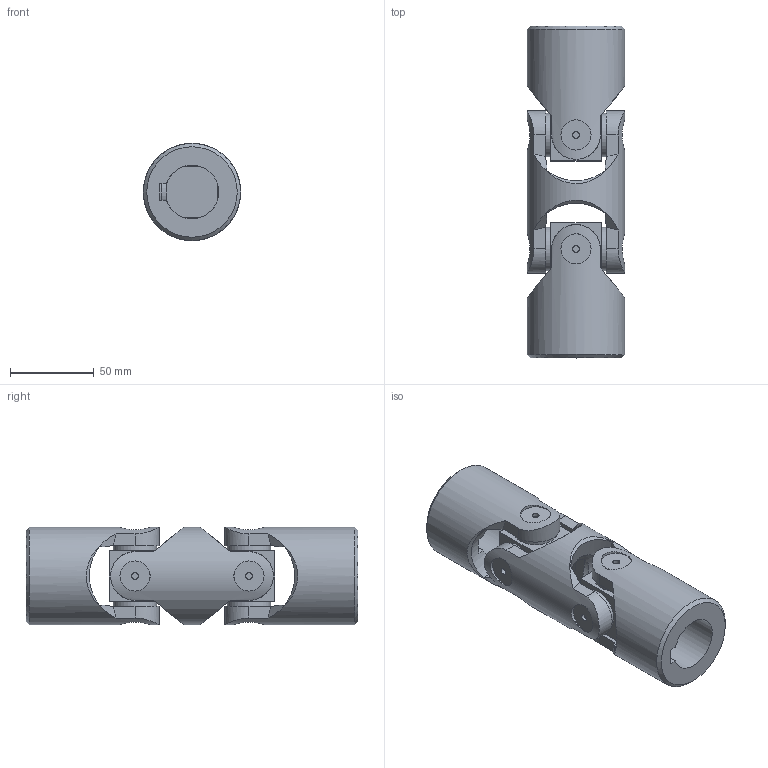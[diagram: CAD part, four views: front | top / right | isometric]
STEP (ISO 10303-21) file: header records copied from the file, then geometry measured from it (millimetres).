
FILE_DESCRIPTION(/* description */ (''),/* implementation_level */ '2;1');
FILE_NAME(/* name */ '\\SRV2016\Societa\Stefano\Disegni 3D\00Catalogo 3D\02Doppi GD-GBD\SG0D322C.stp',/* time_stamp */ '2021-11-23T15:53:59+01:00',/* author */ ('acquisti'),/* organization */ (''),/* preprocessor_version */ 'ST-DEVELOPER v15.6',/* originating_system */ 'Autodesk Inventor 2015',/* authorisation */ '');
FILE_SCHEMA (('AUTOMOTIVE_DESIGN { 1 0 10303 214 3 1 1 }'));
Length unit declared in the file: millimetre
Products named in the file (4): 6G MOD; 6G SFE; 6G1 MOC; Ø58_6GD1-00_SG0D3200
Assembly tree (5 placements, depth 2):
  Ø58_6GD1-00_SG0D3200
    6G MOD
    6G SFE  x2
    6G1 MOC  x2
Bounding box: 58 x 198 x 58 mm (x, y, z)
Volume: 326929.9 mm3; surface area: 73815.9 mm2
Topology: 5 solids, 5 shells, 139 faces, 337 edges, 228 vertices
Faces by surface type: plane 76, cylinder 39, cone 20, torus 4
Full cylindrical faces by diameter (mm): 4 x8, 18 x8, 26 x8, 32 x2, 58 x3
Entity records: 3401 total; most frequent: CARTESIAN_POINT 1260, ORIENTED_EDGE 414, DIRECTION 403, EDGE_CURVE 207, AXIS2_PLACEMENT_3D 174, VERTEX_POINT 157, EDGE_LOOP 138, FACE_OUTER_BOUND 95
